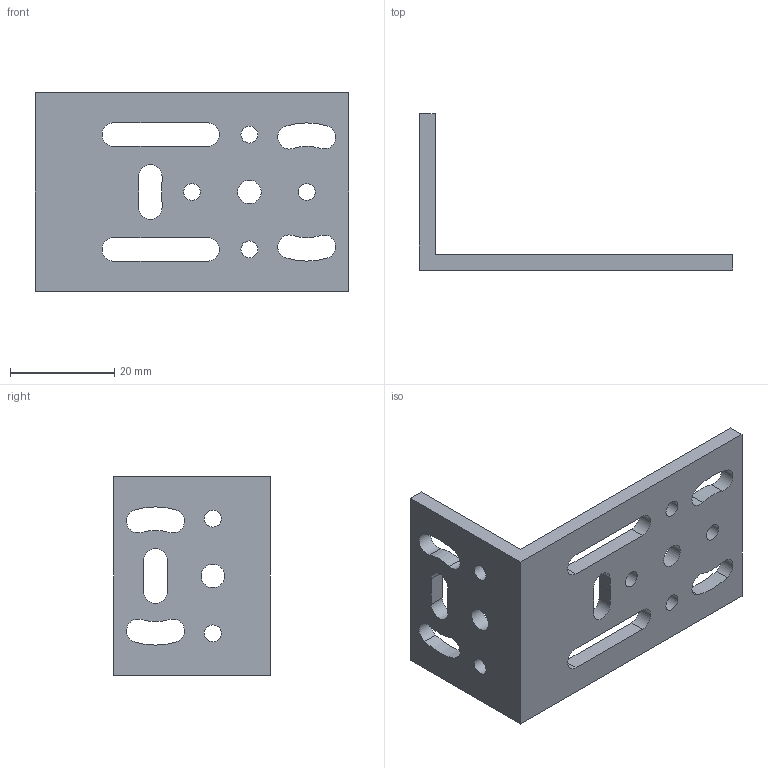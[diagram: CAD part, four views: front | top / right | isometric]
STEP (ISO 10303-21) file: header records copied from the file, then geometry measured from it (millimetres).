
FILE_DESCRIPTION((''),'2;1');
FILE_NAME('Q:\6-Änderungsanträge\3-Genehmigte Änderungsanträge\H-1344\300541_B.stp','2016-02-23T07:50:39',('pangold'),(''),'Autodesk Inventor 2013','Autodesk Inventor 2013','');
FILE_SCHEMA(('AUTOMOTIVE_DESIGN { 1 0 10303 214 1 1 1 1 }'));
Length unit declared in the file: millimetre
Products named in the file (1): 300541
Bounding box: 60 x 30 x 38 mm (x, y, z)
Volume: 8281.4 mm3; surface area: 7327.7 mm2
Topology: 1 solids, 1 shells, 50 faces, 145 edges, 97 vertices
Faces by surface type: cylinder 32, plane 18
Full cylindrical faces by diameter (mm): 3.242 x6, 4.5 x2
Entity records: 1722 total; most frequent: DIRECTION 302, CARTESIAN_POINT 283, ORIENTED_EDGE 272, EDGE_CURVE 136, AXIS2_PLACEMENT_3D 115, VERTEX_POINT 96, EDGE_LOOP 90, VECTOR 72
